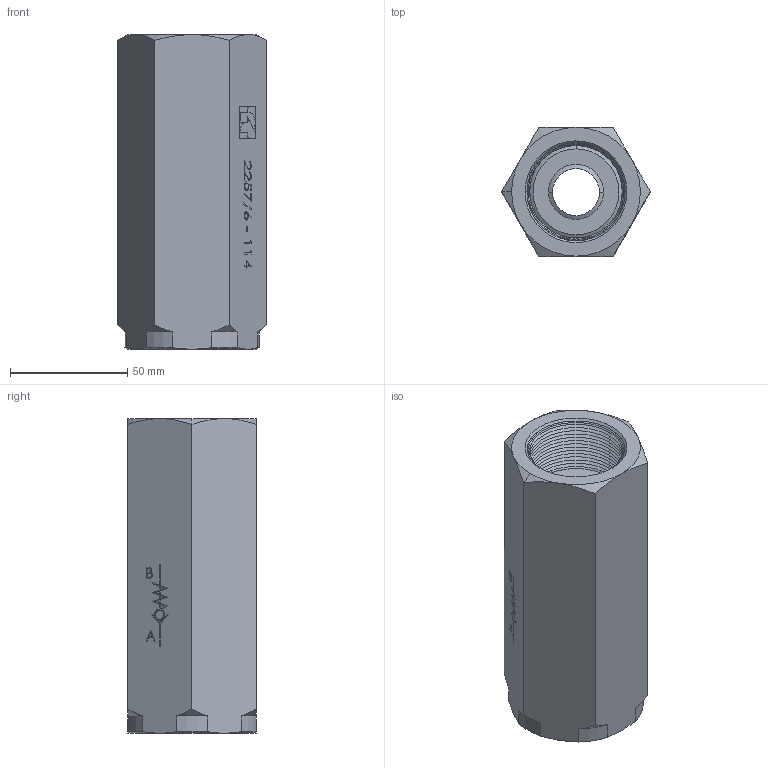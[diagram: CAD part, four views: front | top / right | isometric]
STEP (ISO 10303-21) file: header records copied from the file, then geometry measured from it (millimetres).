
FILE_DESCRIPTION (( 'STEP AP214' ), '1' );
FILE_NAME ('2257-6-114.STEP', '2015-04-08T20:03:38', ( '' ), ( '' ), 'SwSTEP 2.0', 'SolidWorks 2014', '' );
FILE_SCHEMA (( 'AUTOMOTIVE_DESIGN' ));
Length unit declared in the file: millimetre
Products named in the file (1): 2257-6-114
Bounding box: 63.51 x 55 x 134.5 mm (x, y, z)
Surface area: 39413.1 mm2 (no closed solid volume)
Topology: 0 solids, 10 shells, 324 faces, 928 edges, 592 vertices
Faces by surface type: plane 146, cone 129, bspline 31, cylinder 18
Entity records: 16030 total; most frequent: CARTESIAN_POINT 4300, ORIENTED_EDGE 1622, DIRECTION 1592, EDGE_CURVE 928, VECTOR 628, LINE 628, VERTEX_POINT 592, AXIS2_PLACEMENT_3D 482
